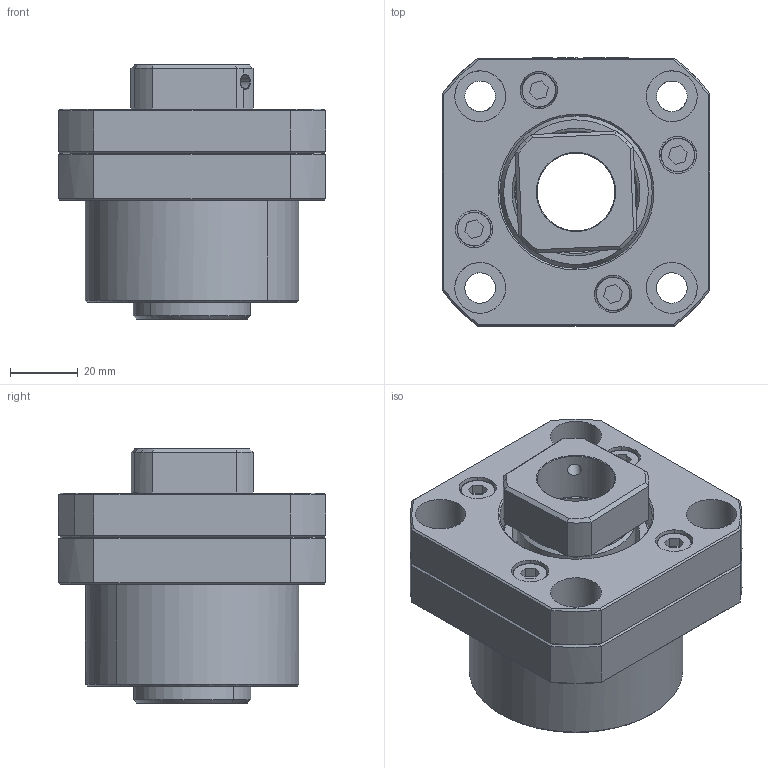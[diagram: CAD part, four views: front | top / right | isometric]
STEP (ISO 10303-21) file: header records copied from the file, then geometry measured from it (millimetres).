
FILE_DESCRIPTION (( 'STEP AP214' ), '1' );
FILE_NAME ('7.4021 FK25.STEP', '2026-03-06T07:41:36', ( '' ), ( '' ), 'SwSTEP 2.0', 'SolidWorks 2025', '' );
FILE_SCHEMA (( 'AUTOMOTIVE_DESIGN' ));
Length unit declared in the file: millimetre
Products named in the file (1): 7.4021 FK25
Bounding box: 79 x 79.1 x 75 mm (x, y, z)
Surface area: 47926.8 mm2 (no closed solid volume)
Topology: 0 solids, 15 shells, 278 faces, 699 edges, 444 vertices
Faces by surface type: plane 108, cone 70, cylinder 67, bspline 33
Entity records: 16289 total; most frequent: CARTESIAN_POINT 10721, ORIENTED_EDGE 1324, EDGE_CURVE 699, B_SPLINE_CURVE_WITH_KNOTS 671, DIRECTION 492, VERTEX_POINT 444, EDGE_LOOP 317, FACE_OUTER_BOUND 278
